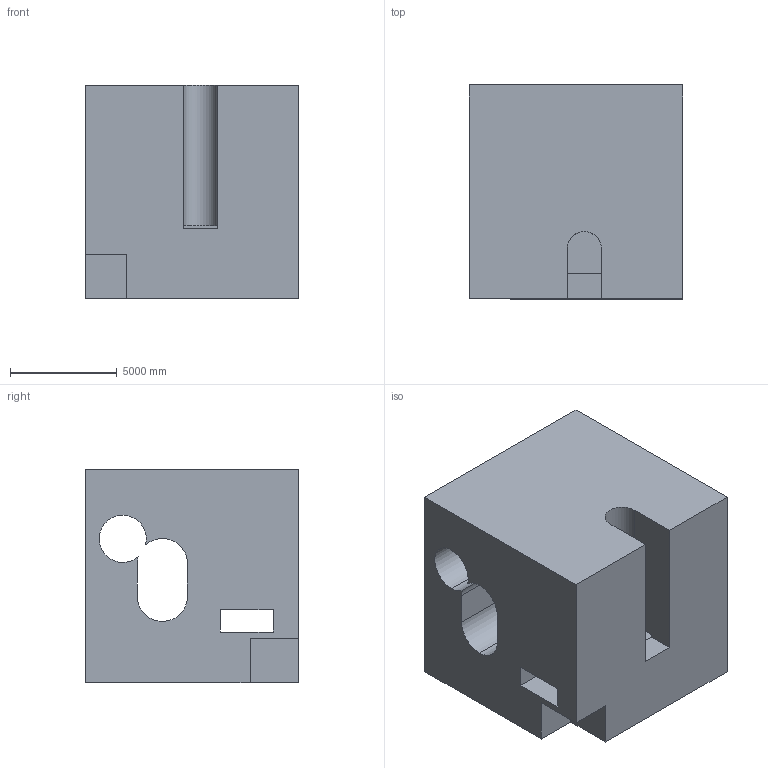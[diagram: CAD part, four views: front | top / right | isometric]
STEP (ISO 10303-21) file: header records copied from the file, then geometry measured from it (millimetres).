
FILE_DESCRIPTION (( 'STEP AP203' ), '1' );
FILE_NAME ('458.STEP', '2022-07-29T11:21:48', ( 'user' ), ( '' ), 'SwSTEP 2.0', 'SolidWorks 2021', '' );
FILE_SCHEMA (( 'CONFIG_CONTROL_DESIGN' ));
Length unit declared in the file: centimetre
Products named in the file (1): 458
Bounding box: 10000 x 10000 x 10000 mm (x, y, z)
Volume: 816092920641.7 mm3; surface area: 833635071.5 mm2
Topology: 1 solids, 1 shells, 26 faces, 78 edges, 52 vertices
Faces by surface type: plane 18, cylinder 8
Entity records: 967 total; most frequent: CARTESIAN_POINT 157, ORIENTED_EDGE 156, DIRECTION 148, EDGE_CURVE 78, LINE 62, VECTOR 62, VERTEX_POINT 52, AXIS2_PLACEMENT_3D 43
